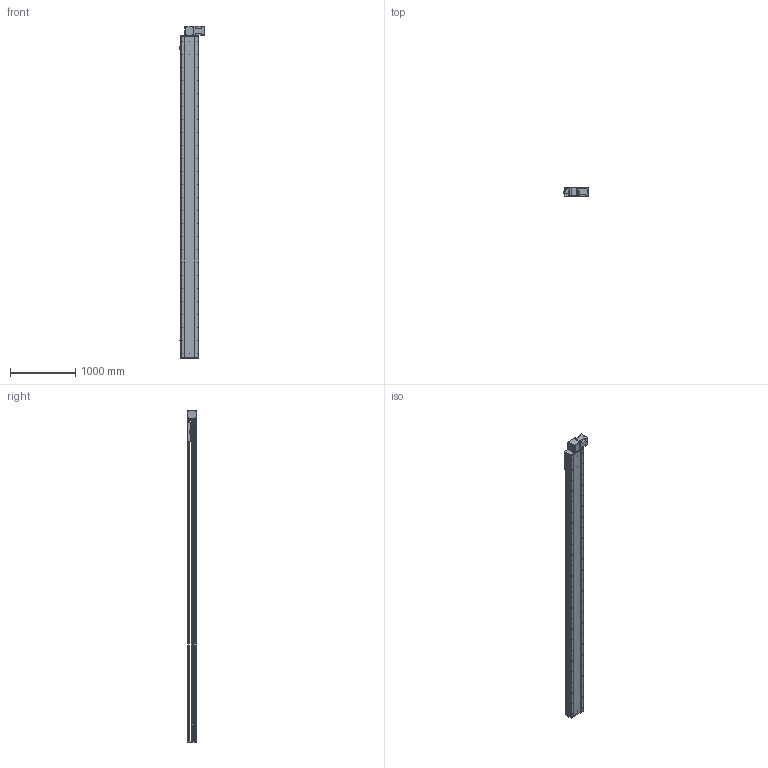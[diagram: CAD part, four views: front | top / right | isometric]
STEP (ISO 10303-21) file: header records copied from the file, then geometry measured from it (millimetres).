
FILE_DESCRIPTION (( 'STEP AP214' ), '1' );
FILE_NAME ('RTB28S-XX-4500-BL-M100-XX-C4.STEP', '2025-12-22T02:46:23', ( '' ), ( '' ), 'SwSTEP 2.0', 'SolidWorks 2018', '' );
FILE_SCHEMA (( 'AUTOMOTIVE_DESIGN' ));
Length unit declared in the file: millimetre
Products named in the file (4): RTB28S-GY-011^RTB28S-XX-XX-BL-M100-XX-C4; RTB28S-GY-008^RTB28S-XX-XX-BL-M100-XX-C4; RTB28S-GY-004^RTB28S-XX-XX-BL-M100-XX-C4; RTB28S-XX-4500-BL-M100-XX-C4
Assembly tree (3 placements, depth 2):
  RTB28S-XX-4500-BL-M100-XX-C4
    RTB28S-GY-011^RTB28S-XX-XX-BL-M100-XX-C4
    RTB28S-GY-004^RTB28S-XX-XX-BL-M100-XX-C4
    RTB28S-GY-008^RTB28S-XX-XX-BL-M100-XX-C4
Bounding box: 380.7 x 145 x 5107 mm (x, y, z)
Volume: 84738824.1 mm3; surface area: 7833811.1 mm2
Topology: 3 solids, 4 shells, 958 faces, 2598 edges, 1668 vertices
Faces by surface type: cylinder 495, plane 379, cone 80, torus 4
Entity records: 37775 total; most frequent: CARTESIAN_POINT 7552, DIRECTION 5544, ORIENTED_EDGE 5132, EDGE_CURVE 2566, AXIS2_PLACEMENT_3D 2072, VERTEX_POINT 1668, VECTOR 1400, LINE 1400
